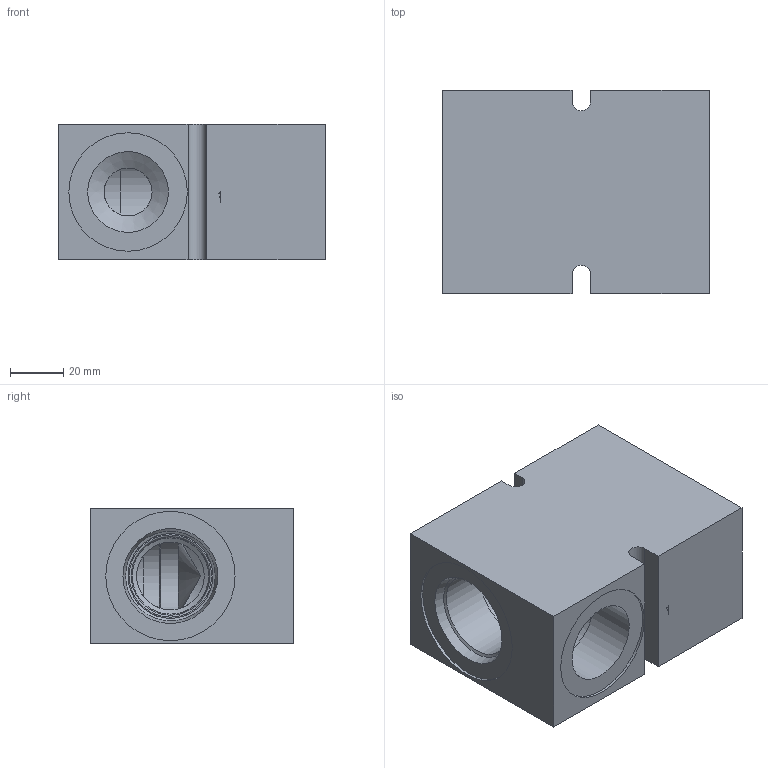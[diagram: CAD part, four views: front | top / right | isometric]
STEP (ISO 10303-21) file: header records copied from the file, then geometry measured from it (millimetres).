
FILE_DESCRIPTION( ( 'Unknown' ), '1' );
FILE_NAME( 'G:/Graphic Design/Graphic Design 2/Data Sheets/Delta Bodies/DRAWINGS/B-DSJE2L.stp', 'Unknown', ( 'Unknown' ), ( 'Unknown' ), 'PSStep 16.0.42', 'Unknown', ' ' );
FILE_SCHEMA( ( 'AUTOMOTIVE_DESIGN { 1 0 10303 214 1 1 1 1 }' ) );
Length unit declared in the file: millimetre
Products named in the file (2): Assem1; B-DSJE2L
Assembly tree (1 placements, depth 2):
  Assem1
    B-DSJE2L
Bounding box: 100 x 76.2 x 50.8 mm (x, y, z)
Surface area: 45041.1 mm2 (no closed solid volume)
Topology: 0 solids, 83 shells, 83 faces, 416 edges, 398 vertices
Faces by surface type: plane 57, cylinder 17, cone 8, torus 1
Full cylindrical faces by diameter (mm): 0.2 x2, 18 x1, 25.4 x1, 28.651 x1, 30.291 x3, 31.806 x2, 44.45 x1, 48.514 x1
Entity records: 4834 total; most frequent: CARTESIAN_POINT 1449, DIRECTION 452, ORIENTED_EDGE 386, EDGE_CURVE 386, VERTEX_POINT 386, B_SPLINE_CURVE_WITH_KNOTS 172, AXIS2_PLACEMENT_3D 153, LINE 146
